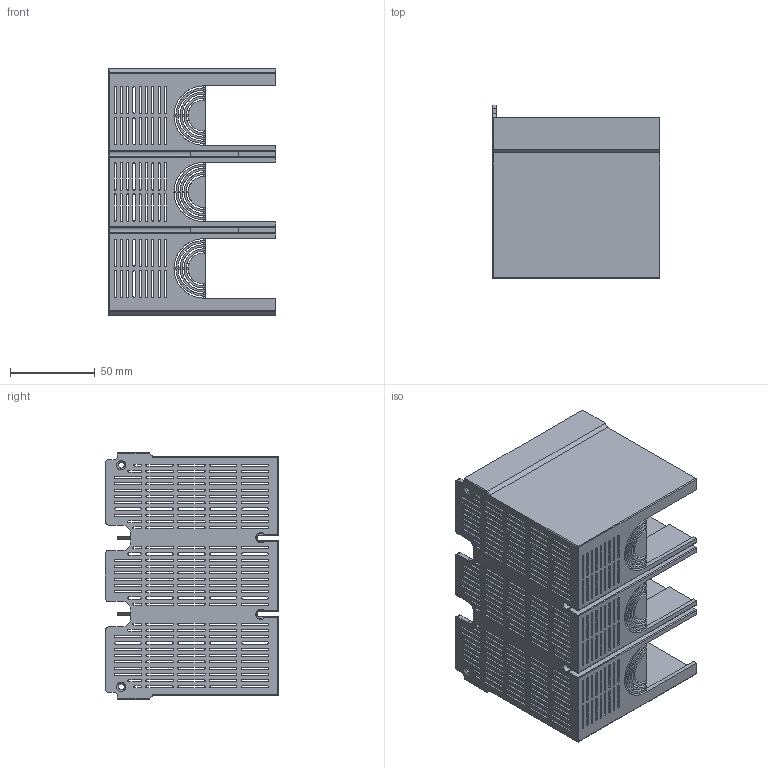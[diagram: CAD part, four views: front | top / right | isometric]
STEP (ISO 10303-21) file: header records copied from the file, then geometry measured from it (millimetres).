
FILE_DESCRIPTION (( 'STEP AP214' ), '1' );
FILE_NAME ('400-630 LPRC 3P.STEP', '2025-11-27T09:27:53', ( '' ), ( '' ), 'SwSTEP 2.0', 'SolidWorks 2024', '' );
FILE_SCHEMA (( 'AUTOMOTIVE_DESIGN' ));
Length unit declared in the file: millimetre
Products named in the file (1): 400-630 LPRC 3P
Bounding box: 98.7 x 102.15 x 145 mm (x, y, z)
Volume: 134347.2 mm3; surface area: 135137.5 mm2
Topology: 1 solids, 1 shells, 1297 faces, 3963 edges, 2612 vertices
Faces by surface type: plane 690, cylinder 591, cone 8, sphere 6, torus 2
Entity records: 45772 total; most frequent: CARTESIAN_POINT 8053, ORIENTED_EDGE 7914, DIRECTION 7865, EDGE_CURVE 3957, AXIS2_PLACEMENT_3D 2630, VERTEX_POINT 2612, VECTOR 2605, LINE 2605
